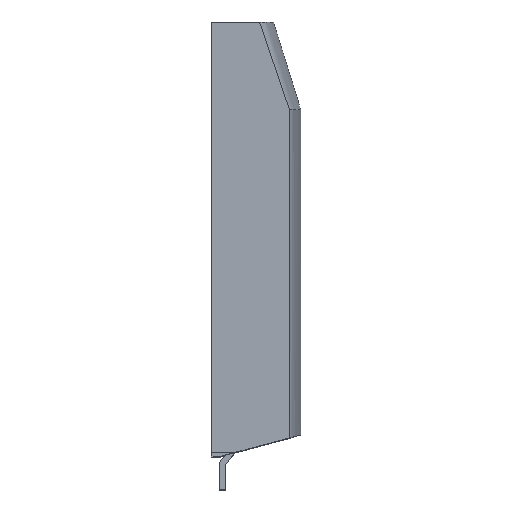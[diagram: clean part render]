
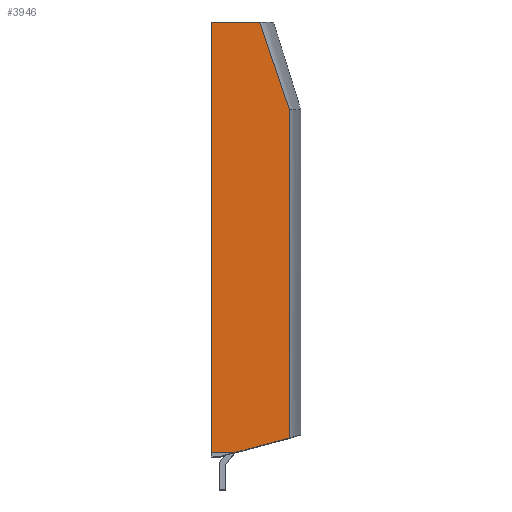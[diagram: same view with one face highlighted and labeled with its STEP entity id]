
A CAD part, top view. The second image highlights one B-rep face of the part: STEP entity #3946.
In plain terms, the highlighted planar face has unit normal (0, 0, 1).
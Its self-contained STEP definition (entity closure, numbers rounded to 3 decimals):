
#247 = LINE ( 'NONE', #248, #2476 ) ;
#248 = CARTESIAN_POINT ( 'NONE',  ( 0., 170.461, 60. ) ) ;
#249 = DIRECTION ( 'NONE',  ( 1., 0., 0. ) ) ;
#395 = CARTESIAN_POINT ( 'NONE',  ( 28.013, 146.461, 60. ) ) ;
#418 = LINE ( 'NONE', #420, #2444 ) ;
#419 = CARTESIAN_POINT ( 'NONE',  ( 32.078, 134.461, 60. ) ) ;
#420 = CARTESIAN_POINT ( 'NONE',  ( 0., -6.039, 60. ) ) ;
#421 = DIRECTION ( 'NONE',  ( 1., 0., 0. ) ) ;
#424 = LINE ( 'NONE', #425, #2442 ) ;
#425 = CARTESIAN_POINT ( 'NONE',  ( 12.5, -5.302, 60. ) ) ;
#426 = DIRECTION ( 'NONE',  ( -0.966, -0.259, 0. ) ) ;
#427 = LINE ( 'NONE', #428, #2441 ) ;
#428 = CARTESIAN_POINT ( 'NONE',  ( 32.078, -64.08, 60. ) ) ;
#429 = DIRECTION ( 'NONE',  ( 0., 1., 0. ) ) ;
#431 = LINE ( 'NONE', #434, #2440 ) ;
#432 = CARTESIAN_POINT ( 'NONE',  ( 23.948, 158.461, 60. ) ) ;
#433 = CARTESIAN_POINT ( 'NONE',  ( 19.883, 170.461, 60. ) ) ;
#434 = CARTESIAN_POINT ( 'NONE',  ( 0., 170.461, 60. ) ) ;
#435 = DIRECTION ( 'NONE',  ( 0., 1., 0. ) ) ;
#555 = CARTESIAN_POINT ( 'NONE',  ( 0., 170.461, 60. ) ) ;
#557 = CARTESIAN_POINT ( 'NONE',  ( 19.883, 170.461, 60. ) ) ;
#774 = EDGE_LOOP ( 'NONE', ( #3471, #3472, #3473, #3474, #3475, #3476 ) ) ;
#1010 = EDGE_CURVE ( 'NONE', #2581, #2583, #247, .T. ) ;
#1042 = EDGE_CURVE ( 'NONE', #3839, #3836, #418, .T. ) ;
#1044 = EDGE_CURVE ( 'NONE', #3845, #3836, #424, .T. ) ;
#1045 = EDGE_CURVE ( 'NONE', #3845, #3852, #427, .T. ) ;
#1046 = EDGE_CURVE ( 'NONE', #3852, #2583, #2357, .T. ) ;
#1047 = EDGE_CURVE ( 'NONE', #3839, #2581, #431, .T. ) ;
#1118 = CARTESIAN_POINT ( 'NONE',  ( 0., 170.461, 60. ) ) ;
#1126 = FACE_OUTER_BOUND ( 'NONE', #774, .T. ) ;
#1127 = PLANE ( 'NONE',  #2228 ) ;
#1129 = DIRECTION ( 'NONE',  ( 0., 0., -1. ) ) ;
#1130 = DIRECTION ( 'NONE',  ( 0., -1., 0. ) ) ;
#2046 = CARTESIAN_POINT ( 'NONE',  ( 9.749, -6.039, 60. ) ) ;
#2049 = CARTESIAN_POINT ( 'NONE',  ( 0., -6.039, 60. ) ) ;
#2055 = CARTESIAN_POINT ( 'NONE',  ( 32.078, -0.056, 60. ) ) ;
#2062 = CARTESIAN_POINT ( 'NONE',  ( 32.078, 134.461, 60. ) ) ;
#2228 = AXIS2_PLACEMENT_3D ( 'NONE', #1118, #1129, #1130 ) ;
#2357 = B_SPLINE_CURVE_WITH_KNOTS ( 'NONE', 3,
 ( #419, #395, #432, #433 ),
 .UNSPECIFIED., .F., .F.,
 ( 4, 4 ),
 ( 0., 1. ),
 .UNSPECIFIED. ) ;
#2440 = VECTOR ( 'NONE', #435, 1000. ) ;
#2441 = VECTOR ( 'NONE', #429, 1000. ) ;
#2442 = VECTOR ( 'NONE', #426, 1000. ) ;
#2444 = VECTOR ( 'NONE', #421, 1000. ) ;
#2476 = VECTOR ( 'NONE', #249, 1000. ) ;
#2581 = VERTEX_POINT ( 'NONE', #555 ) ;
#2583 = VERTEX_POINT ( 'NONE', #557 ) ;
#3471 = ORIENTED_EDGE ( 'NONE', *, *, #1042, .T. ) ;
#3472 = ORIENTED_EDGE ( 'NONE', *, *, #1044, .F. ) ;
#3473 = ORIENTED_EDGE ( 'NONE', *, *, #1045, .T. ) ;
#3474 = ORIENTED_EDGE ( 'NONE', *, *, #1046, .T. ) ;
#3475 = ORIENTED_EDGE ( 'NONE', *, *, #1010, .F. ) ;
#3476 = ORIENTED_EDGE ( 'NONE', *, *, #1047, .F. ) ;
#3836 = VERTEX_POINT ( 'NONE', #2046 ) ;
#3839 = VERTEX_POINT ( 'NONE', #2049 ) ;
#3845 = VERTEX_POINT ( 'NONE', #2055 ) ;
#3852 = VERTEX_POINT ( 'NONE', #2062 ) ;
#3946 = ADVANCED_FACE ( 'NONE', ( #1126 ), #1127, .F. ) ;
